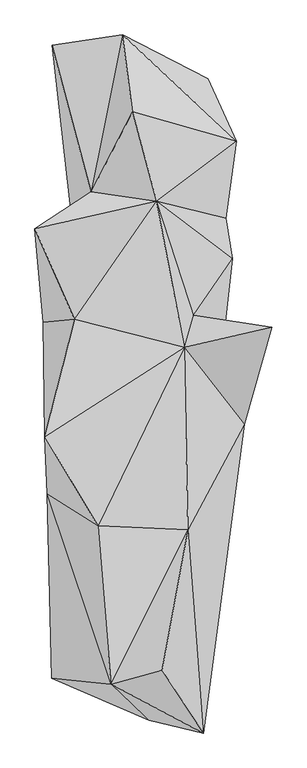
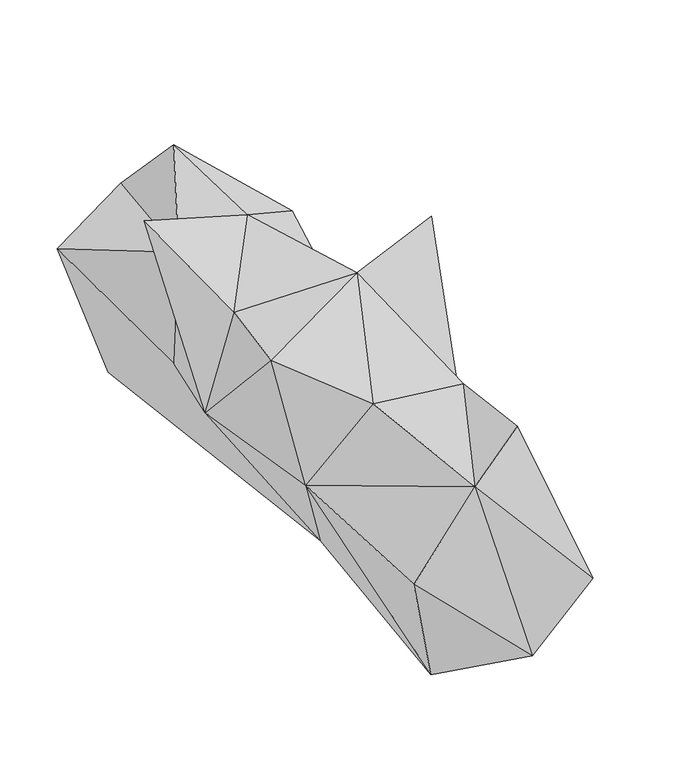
"""IFC4 building model written with IfcOpenShell, lengths in millimetres: geographic element geometry, Enscape AssetDefinition - Potted Plant 250 Snake Plant : Enscape AssetDefinition - Potted Plant 250 Snake Plant 7."""

import ifcopenshell
import ifcopenshell.guid

model = None  # the IFC model being written
_history = None  # IfcOwnerHistory: only IFC2X3 demands one
_inside = {}  # id of a spatial element -> (the spatial element, [elements in it])
_under = {}  # id of a project, library or spatial element -> (it, [spatial elements below it])
_declared = {}  # id of a project -> (the project, [libraries it declares])
_typed = {}  # id of a type object -> (the type object, [elements of that type])
_made_of = {}  # id of a material, layer set ... -> (it, [elements and type objects made of it])


def new_model(schema):
    """Start an empty IFC model of exactly this schema.

    Asked for "IFC4X3", IfcOpenShell would pick the latest addendum, in which some entities
    have other attributes; the version numbers below select the first issue.
    IFC2X3 requires an IfcOwnerHistory on every rooted entity: one is made here for all.
    """
    global model, _history
    if schema == "IFC4X3":
        model = ifcopenshell.file(schema_version=(4, 3, 0, 0))
    else:
        model = ifcopenshell.file(schema=schema)
    _inside.clear()
    _under.clear()
    _declared.clear()
    _typed.clear()
    _made_of.clear()
    _history = None
    if model.schema == "IFC2X3":
        org = make("IfcOrganization", Name="unknown")
        user = make(
            "IfcPersonAndOrganization",
            ThePerson=make("IfcPerson", FamilyName="unknown"),
            TheOrganization=org,
        )
        app = make(
            "IfcApplication",
            ApplicationDeveloper=org,
            Version="unknown",
            ApplicationFullName="unknown",
            ApplicationIdentifier="unknown",
        )
        _history = make(
            "IfcOwnerHistory",
            OwningUser=user,
            OwningApplication=app,
            ChangeAction="ADDED",
            CreationDate=0,
        )
    return model


def make(cls, **values):
    """One entity of the class cls with the attributes given. An attribute that is None is left unset."""
    return model.create_entity(
        cls, **{name: value for name, value in values.items() if value is not None}
    )


def rooted(cls, **values):
    """An entity with a GlobalId (a new one), such as an element, a storey or a relation."""
    return make(cls, GlobalId=ifcopenshell.guid.new(), OwnerHistory=_history, **values)


def si_unit(unit_type, name, prefix=None):
    """IfcSIUnit, for example si_unit("LENGTHUNIT", "METRE", prefix="MILLI")."""
    return make("IfcSIUnit", UnitType=unit_type, Prefix=prefix, Name=name)


def assignment(units):
    """IfcUnitAssignment: the units of a project."""
    return None if units is None else make("IfcUnitAssignment", Units=units)


def point(xyz):
    """IfcCartesianPoint."""
    return None if xyz is None else make("IfcCartesianPoint", Coordinates=xyz)


def direction(xyz):
    """IfcDirection."""
    return None if xyz is None else make("IfcDirection", DirectionRatios=xyz)


def frame(location, z_axis=None, x_axis=None):
    """IfcAxis2Placement3D, a coordinate frame: its origin and axes. An axis left out is left unset."""
    return make(
        "IfcAxis2Placement3D",
        Location=point(location),
        Axis=direction(z_axis),
        RefDirection=direction(x_axis),
    )


def origin():
    """The frame at (0, 0, 0) with its axes left unset."""
    return frame((0.0, 0.0, 0.0))


def place(relative_to, where):
    """IfcLocalPlacement: puts the frame where relative to a parent placement (None: the world)."""
    return make(
        "IfcLocalPlacement", PlacementRelTo=relative_to, RelativePlacement=where
    )


def context(
    kind, dimensions, precision=None, world=None, true_north=None, identifier=None
):
    """IfcGeometricRepresentationContext, for example the 3D "Model" context."""
    return make(
        "IfcGeometricRepresentationContext",
        ContextIdentifier=identifier,
        ContextType=kind,
        CoordinateSpaceDimension=dimensions,
        Precision=precision,
        WorldCoordinateSystem=world,
        TrueNorth=true_north,
    )


def project(units=None, contexts=None):
    """IfcProject with its units and contexts."""
    return rooted(
        "IfcProject",
        Name="project",
        RepresentationContexts=contexts,
        UnitsInContext=assignment(units),
    )


def spatial(cls, under=None, at=None, **own):
    """A site, building, storey or space (cls), placed at a placement, below another one or the project."""
    s = rooted(cls, ObjectPlacement=at, **own)
    if under is not None:
        _under.setdefault(under.id(), (under, []))[1].append(s)
    return s


def point_list(points):
    """IfcCartesianPointList2D or 3D."""
    cls = (
        "IfcCartesianPointList2D" if len(points[0]) == 2 else "IfcCartesianPointList3D"
    )
    return make(cls, CoordList=points)


def triangles(points, corners, closed=None, point_numbers=None):
    """IfcTriangulatedFaceSet: each triangle names its three corners, points numbered from 1."""
    return make(
        "IfcTriangulatedFaceSet",
        Coordinates=point_list(points),
        Closed=closed,
        CoordIndex=corners,
        PnIndex=point_numbers,
    )


def shape(context_of_items, identifier, shape_type, items):
    """IfcShapeRepresentation: the items that make up one representation, for example the "Body"."""
    return make(
        "IfcShapeRepresentation",
        ContextOfItems=context_of_items,
        RepresentationIdentifier=identifier,
        RepresentationType=shape_type,
        Items=items,
    )


def source(mapping_origin, context_of_items, identifier, shape_type, items):
    """IfcRepresentationMap: a shape defined once, which mapped items show again and again."""
    return make(
        "IfcRepresentationMap",
        MappingOrigin=mapping_origin,
        MappedRepresentation=shape(context_of_items, identifier, shape_type, items),
    )


def transform(
    local_origin,
    x_axis=None,
    y_axis=None,
    z_axis=None,
    scale=None,
    scale2=None,
    scale3=None,
    uniform=True,
):
    """IfcCartesianTransformationOperator3D, or its non-uniform kind. x_axis, y_axis, z_axis: its Axis1, 2, 3."""
    if uniform:
        return make(
            "IfcCartesianTransformationOperator3D",
            Axis1=direction(x_axis),
            Axis2=direction(y_axis),
            LocalOrigin=point(local_origin),
            Scale=scale,
            Axis3=direction(z_axis),
        )
    return make(
        "IfcCartesianTransformationOperator3DnonUniform",
        Axis1=direction(x_axis),
        Axis2=direction(y_axis),
        LocalOrigin=point(local_origin),
        Scale=scale,
        Axis3=direction(z_axis),
        Scale2=scale2,
        Scale3=scale3,
    )


def mapped(mapping_source, mapping_target):
    """IfcMappedItem: shows the shape of a source again, moved by a transform."""
    return make(
        "IfcMappedItem", MappingSource=mapping_source, MappingTarget=mapping_target
    )


def made_of(thing, what):
    """Note that an element or type object is made of a material, layer set ...; save() writes the relation."""
    if what is not None:
        _made_of.setdefault(what.id(), (what, []))[1].append(thing)
    return thing


def element(
    cls,
    number,
    at=None,
    inside=None,
    cuts=None,
    type_object=None,
    material=None,
    context=None,
    identifier="Body",
    shape_type=None,
    held_by="IfcProductDefinitionShape",
    body=None,
    shapes=None,
    **own,
):
    """One element of the class cls, such as IfcWall. Its Tag is "e" and its number.

    at: its placement. inside: the storey or other place that contains it. cuts: it is an
    opening in that element (IfcRelVoidsElement). A single representation is given by context,
    identifier, shape_type and body (its items); several are given by shapes. held_by: the class
    of the entity that holds the representations. save() writes the other relations.
    """
    e = rooted(cls, Tag="e%d" % number, ObjectPlacement=at, **own)
    if body is not None:
        shapes = [shape(context, identifier, shape_type, body)]
    if shapes is not None:
        e.Representation = make(held_by, Representations=shapes)
    if inside is not None:
        _inside.setdefault(inside.id(), (inside, []))[1].append(e)
    if cuts is not None:
        rooted(
            "IfcRelVoidsElement", RelatingBuildingElement=cuts, RelatedOpeningElement=e
        )
    if type_object is not None:
        _typed.setdefault(type_object.id(), (type_object, []))[1].append(e)
    return made_of(e, material)


def aggregate(whole, parts):
    """IfcRelAggregates: a whole, such as a stair, and the parts it consists of."""
    return rooted("IfcRelAggregates", RelatingObject=whole, RelatedObjects=parts)


def save(model, path):
    """Write the relations noted so far, then the file.

    IfcRelAggregates (storeys below a building ...), IfcRelContainedInSpatialStructure (elements
    in a storey), IfcRelDefinesByType, IfcRelAssociatesMaterial and IfcRelDeclares: one each for
    every whole, place, type object, material and project.
    """
    for whole, parts in _under.values():
        aggregate(whole, parts)
    for where, things in _inside.values():
        rooted(
            "IfcRelContainedInSpatialStructure",
            RelatedElements=things,
            RelatingStructure=where,
        )
    for kind, things in _typed.values():
        rooted("IfcRelDefinesByType", RelatedObjects=things, RelatingType=kind)
    for what, things in _made_of.values():
        rooted("IfcRelAssociatesMaterial", RelatedObjects=things, RelatingMaterial=what)
    for by, libraries in _declared.values():
        rooted("IfcRelDeclares", RelatingContext=by, RelatedDefinitions=libraries)
    model.write(path)


def geographic_element_8b341069(model_context):
    return source(origin(), model_context, "Body", "Tessellation", [
        triangles([(-13.9519361, 504.949302, 408.1375151), (-31.7017714, 644.0256603, 254.9431777), (122.469396, 564.5557291, 52.5086863), (25.6129238, 494.5949922, 0.0), (-88.5645251, 360.5353334, 311.8915366), (155.1010888, 312.6956663, 214.2696974), (174.1806836, 452.2902343, 245.1435396), (127.6312902, 335.4577217, 74.891795), (66.3936173, -64.7958315, 0.0), (29.8084072, 343.3185791, 354.1665361), (96.4462297, 138.2960825, 259.0381312), (166.7955784, 239.6160609, 211.9757785), (137.9156279, -20.6803443, 132.543772), (238.0860489, 116.2554584, 416.179248), (188.33438, -58.5960464, 191.5113482), (86.7091423, -249.2608573, 362.5828102), (114.0918278, -616.3250256, 195.5653522), (126.8458004, -460.1637362, 0.0), (15.7261738, -593.3761356, 64.9268691), (39.873847, -503.0097765, 450.0000034), (-76.2662205, -242.2458059, 376.9934132), (-159.8773234, -517.3406605, 220.1634873), (-52.6114326, -527.8915426, 380.0013691), (-71.8570465, -65.6460975, 0.0), (-3.0429355, -449.5235427, 0.0), (-122.1775352, -507.0824203, 24.0486434), (-167.6577714, -184.4784199, 214.6330291), (79.7789603, 80.2368539, 382.4129225), (-172.1004508, -81.6149947, 398.2835381), (-118.6089666, 130.3287636, 344.9000233), (-175.1403816, 125.72304, 171.0915735), (-123.7269319, 314.6299596, 134.908435), (-190.2969964, 293.9518613, 448.9635841), (-130.7375141, 512.3083368, 0.0), (-159.1692634, 625.7196556, 182.6364175)], [[4, 9, 24], [34, 4, 24], [4, 34, 35], [35, 34, 32], [24, 32, 34], [5, 35, 32], [5, 33, 10], [28, 10, 30], [33, 30, 10], [31, 33, 5], [24, 31, 32], [31, 5, 32], [30, 33, 31], [29, 30, 31], [28, 30, 29], [28, 29, 21], [27, 21, 29], [27, 29, 31], [27, 31, 24], [27, 26, 22], [27, 24, 26], [24, 25, 26], [24, 9, 25], [22, 26, 19], [26, 25, 19], [21, 27, 23], [22, 19, 23], [27, 22, 23], [16, 23, 20], [28, 21, 16], [16, 21, 23], [17, 16, 20], [17, 23, 19], [20, 23, 17], [18, 25, 9], [19, 25, 18], [17, 19, 18], [18, 15, 17], [15, 28, 16], [15, 16, 17], [28, 15, 14], [9, 15, 18], [15, 9, 13], [15, 13, 11], [14, 15, 11], [10, 28, 11], [11, 28, 14], [12, 11, 13], [12, 13, 9], [12, 10, 11], [6, 10, 12], [4, 8, 9], [6, 12, 8], [8, 12, 9], [8, 4, 3], [7, 10, 6], [7, 6, 8], [8, 3, 7], [1, 10, 7], [5, 10, 1], [2, 7, 3], [4, 35, 2], [5, 2, 35], [5, 1, 2], [2, 3, 4], [2, 1, 7]]),
    ])


if __name__ == "__main__":
    model = new_model("IFC4")
    model_context = context("Model", 3, world=origin())
    ifc_project = project(units=[si_unit("LENGTHUNIT", "METRE", prefix="MILLI")], contexts=[model_context])
    site = spatial("IfcSite", under=ifc_project)
    building = spatial("IfcBuilding", under=site)
    placement = place(None, origin())
    geographic_element_shape = geographic_element_8b341069(model_context)
    element("IfcGeographicElement", 1, ObjectType="Enscape AssetDefinition - Potted Plant 250 Snake Plant : Enscape AssetDefinition - Potted Plant 250 Snake Plant 7", at=placement, inside=building, context=model_context, shape_type="MappedRepresentation", body=[
        mapped(geographic_element_shape, transform((0.0, 0.0, 0.0), x_axis=(1.0, 0.0, 0.0), y_axis=(0.0, 1.0, 0.0), z_axis=(0.0, 0.0, 1.0))),
    ])
    save(model, "model.ifc")
